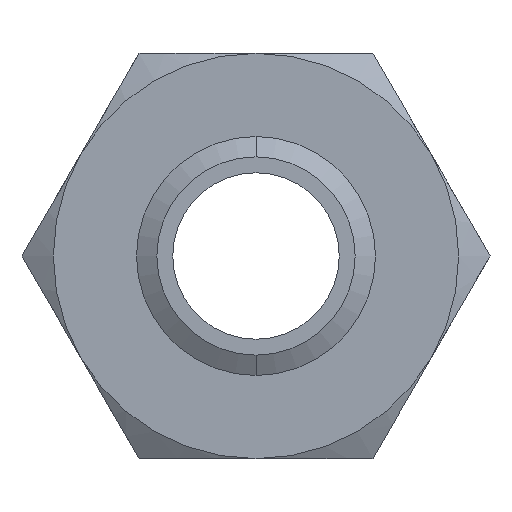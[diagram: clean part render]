
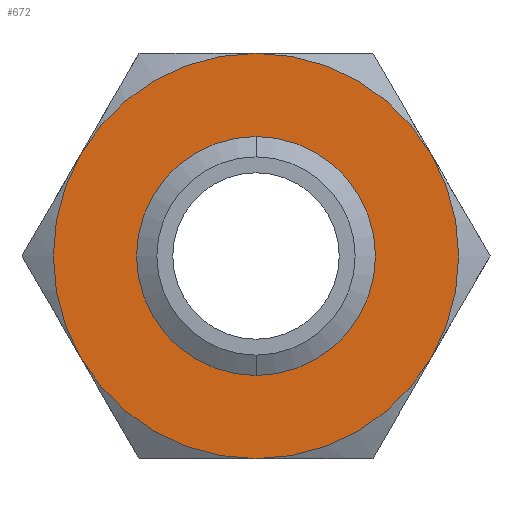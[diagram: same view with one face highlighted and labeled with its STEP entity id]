
A CAD part, front view. The second image highlights one B-rep face of the part: STEP entity #672.
In plain terms, the highlighted planar face has unit normal (0, -1, 0).
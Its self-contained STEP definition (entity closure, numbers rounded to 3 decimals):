
#164 = EDGE_CURVE ( 'NONE', #423, #421, #1018, .T. ) ;
#407 = ORIENTED_EDGE ( 'NONE', *, *, #424, .F. ) ;
#408 = EDGE_LOOP ( 'NONE', ( #407, #671 ) ) ;
#409 = EDGE_CURVE ( 'NONE', #676, #688, #1451, .T. ) ;
#421 = VERTEX_POINT ( 'NONE', #1487 ) ;
#423 = VERTEX_POINT ( 'NONE', #1486 ) ;
#424 = EDGE_CURVE ( 'NONE', #421, #423, #1485, .T. ) ;
#671 = ORIENTED_EDGE ( 'NONE', *, *, #164, .F. ) ;
#672 = ADVANCED_FACE ( 'NONE', ( #2045, #2044 ), #2043, .F. ) ;
#673 = ORIENTED_EDGE ( 'NONE', *, *, #674, .F. ) ;
#674 = EDGE_CURVE ( 'NONE', #675, #676, #2037, .T. ) ;
#675 = VERTEX_POINT ( 'NONE', #2033 ) ;
#676 = VERTEX_POINT ( 'NONE', #2032 ) ;
#677 = ORIENTED_EDGE ( 'NONE', *, *, #679, .F. ) ;
#678 = VERTEX_POINT ( 'NONE', #2031 ) ;
#679 = EDGE_CURVE ( 'NONE', #678, #675, #2030, .T. ) ;
#680 = ORIENTED_EDGE ( 'NONE', *, *, #681, .F. ) ;
#681 = EDGE_CURVE ( 'NONE', #682, #678, #2089, .T. ) ;
#682 = VERTEX_POINT ( 'NONE', #2084 ) ;
#683 = ORIENTED_EDGE ( 'NONE', *, *, #684, .F. ) ;
#684 = EDGE_CURVE ( 'NONE', #685, #682, #2082, .T. ) ;
#685 = VERTEX_POINT ( 'NONE', #2083 ) ;
#686 = ORIENTED_EDGE ( 'NONE', *, *, #687, .F. ) ;
#687 = EDGE_CURVE ( 'NONE', #688, #685, #2077, .T. ) ;
#688 = VERTEX_POINT ( 'NONE', #2072 ) ;
#689 = ORIENTED_EDGE ( 'NONE', *, *, #409, .F. ) ;
#705 = EDGE_LOOP ( 'NONE', ( #673, #677, #680, #683, #686, #689 ) ) ;
#1014 = DIRECTION ( 'NONE',  ( 0., 0., -1. ) ) ;
#1015 = DIRECTION ( 'NONE',  ( 0., -1., 0. ) ) ;
#1016 = CARTESIAN_POINT ( 'NONE',  ( 0., 0., 0. ) ) ;
#1017 = AXIS2_PLACEMENT_3D ( 'NONE', #1016, #1015, #1014 ) ;
#1018 = CIRCLE ( 'NONE', #1017, 23.237 ) ;
#1445 = DIRECTION ( 'NONE',  ( 0., 1., 0. ) ) ;
#1446 = CARTESIAN_POINT ( 'NONE',  ( 0., 0., 0. ) ) ;
#1447 = AXIS2_PLACEMENT_3D ( 'NONE', #1446, #1445, #1507 ) ;
#1451 = CIRCLE ( 'NONE', #1447, 47.5 ) ;
#1481 = DIRECTION ( 'NONE',  ( 0., 0., -1. ) ) ;
#1482 = DIRECTION ( 'NONE',  ( 0., -1., 0. ) ) ;
#1483 = CARTESIAN_POINT ( 'NONE',  ( 0., 0., 0. ) ) ;
#1484 = AXIS2_PLACEMENT_3D ( 'NONE', #1483, #1482, #1481 ) ;
#1485 = CIRCLE ( 'NONE', #1484, 23.237 ) ;
#1486 = CARTESIAN_POINT ( 'NONE',  ( 0., 0., 23.237 ) ) ;
#1487 = CARTESIAN_POINT ( 'NONE',  ( 0., 0., -23.237 ) ) ;
#1507 = DIRECTION ( 'NONE',  ( 0., 0., 1. ) ) ;
#2026 = DIRECTION ( 'NONE',  ( 0., 0., 1. ) ) ;
#2027 = DIRECTION ( 'NONE',  ( 0., 1., 0. ) ) ;
#2028 = CARTESIAN_POINT ( 'NONE',  ( 0., 0., 0. ) ) ;
#2029 = AXIS2_PLACEMENT_3D ( 'NONE', #2028, #2027, #2026 ) ;
#2030 = CIRCLE ( 'NONE', #2029, 47.5 ) ;
#2031 = CARTESIAN_POINT ( 'NONE',  ( -41.136, 0., 23.75 ) ) ;
#2032 = CARTESIAN_POINT ( 'NONE',  ( 41.136, 0., 23.75 ) ) ;
#2033 = CARTESIAN_POINT ( 'NONE',  ( 0., 0., 47.5 ) ) ;
#2034 = DIRECTION ( 'NONE',  ( 0., 0., 1. ) ) ;
#2035 = DIRECTION ( 'NONE',  ( 0., 1., 0. ) ) ;
#2036 = AXIS2_PLACEMENT_3D ( 'NONE', #2041, #2035, #2034 ) ;
#2037 = CIRCLE ( 'NONE', #2036, 47.5 ) ;
#2038 = DIRECTION ( 'NONE',  ( 0., 0., 1. ) ) ;
#2039 = DIRECTION ( 'NONE',  ( 0., 1., 0. ) ) ;
#2040 = CARTESIAN_POINT ( 'NONE',  ( 27.424, 0., -47.5 ) ) ;
#2041 = CARTESIAN_POINT ( 'NONE',  ( 0., 0., 0. ) ) ;
#2042 = AXIS2_PLACEMENT_3D ( 'NONE', #2040, #2039, #2038 ) ;
#2043 = PLANE ( 'NONE',  #2042 ) ;
#2044 = FACE_BOUND ( 'NONE', #408, .T. ) ;
#2045 = FACE_OUTER_BOUND ( 'NONE', #705, .T. ) ;
#2072 = CARTESIAN_POINT ( 'NONE',  ( 41.136, 0., -23.75 ) ) ;
#2073 = DIRECTION ( 'NONE',  ( 0., 0., 1. ) ) ;
#2074 = DIRECTION ( 'NONE',  ( 0., 1., 0. ) ) ;
#2075 = CARTESIAN_POINT ( 'NONE',  ( 0., 0., 0. ) ) ;
#2076 = AXIS2_PLACEMENT_3D ( 'NONE', #2075, #2074, #2073 ) ;
#2077 = CIRCLE ( 'NONE', #2076, 47.5 ) ;
#2078 = DIRECTION ( 'NONE',  ( 0., 0., 1. ) ) ;
#2079 = DIRECTION ( 'NONE',  ( 0., 1., 0. ) ) ;
#2080 = CARTESIAN_POINT ( 'NONE',  ( 0., 0., 0. ) ) ;
#2081 = AXIS2_PLACEMENT_3D ( 'NONE', #2080, #2079, #2078 ) ;
#2082 = CIRCLE ( 'NONE', #2081, 47.5 ) ;
#2083 = CARTESIAN_POINT ( 'NONE',  ( 0., 0., -47.5 ) ) ;
#2084 = CARTESIAN_POINT ( 'NONE',  ( -41.136, 0., -23.75 ) ) ;
#2085 = DIRECTION ( 'NONE',  ( 0., 0., 1. ) ) ;
#2086 = DIRECTION ( 'NONE',  ( 0., 1., 0. ) ) ;
#2087 = CARTESIAN_POINT ( 'NONE',  ( 0., 0., 0. ) ) ;
#2088 = AXIS2_PLACEMENT_3D ( 'NONE', #2087, #2086, #2085 ) ;
#2089 = CIRCLE ( 'NONE', #2088, 47.5 ) ;
